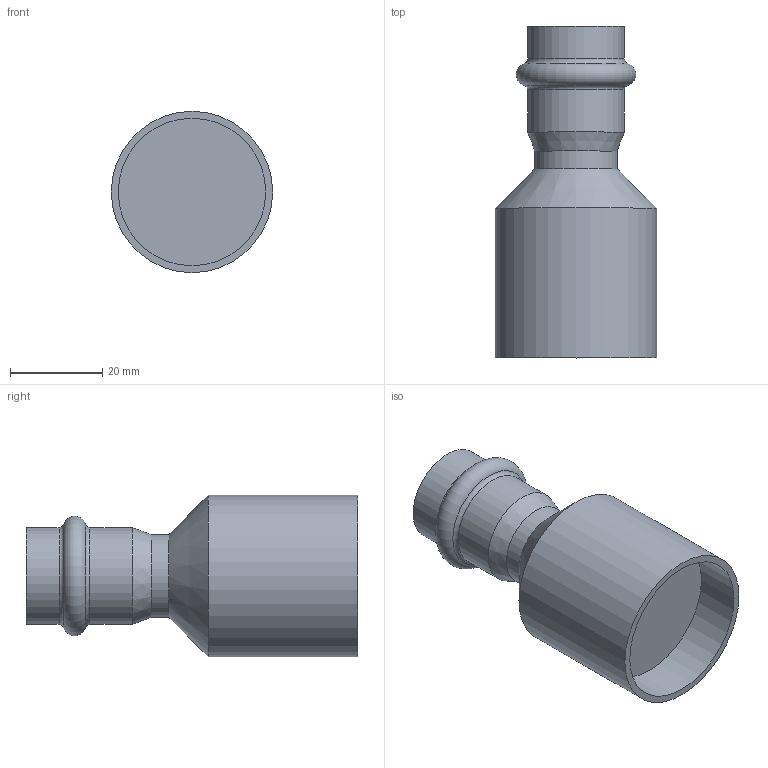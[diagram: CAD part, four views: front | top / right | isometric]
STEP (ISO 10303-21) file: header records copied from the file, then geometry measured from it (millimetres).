
FILE_DESCRIPTION(('STEP AP203'), '1');
FILE_NAME('VTi.905.I.003518', '', ('UNSPECIFIED'), ('UNSPECIFIED'), 'C3D Converter', 'C3D Toolkit', '');
FILE_SCHEMA(('CONFIG_CONTROL_DESIGN'));
Length unit declared in the file: millimetre
Bounding box: 35 x 72 x 35 mm (x, y, z)
Volume: 37112.8 mm3; surface area: 9532.7 mm2
Topology: 1 solids, 1 shells, 15 faces, 26 edges, 15 vertices
Faces by surface type: cylinder 6, plane 4, torus 3, cone 2
Full cylindrical faces by diameter (mm): 18 x1, 18.3 x1, 21 x2, 32 x1, 35 x1
Entity records: 344 total; most frequent: DIRECTION 62, CARTESIAN_POINT 46, AXIS2_PLACEMENT_3D 31, ORIENTED_EDGE 30, EDGE_LOOP 28, FACE_OUTER_BOUND 20, ADVANCED_FACE 15, EDGE_CURVE 15
